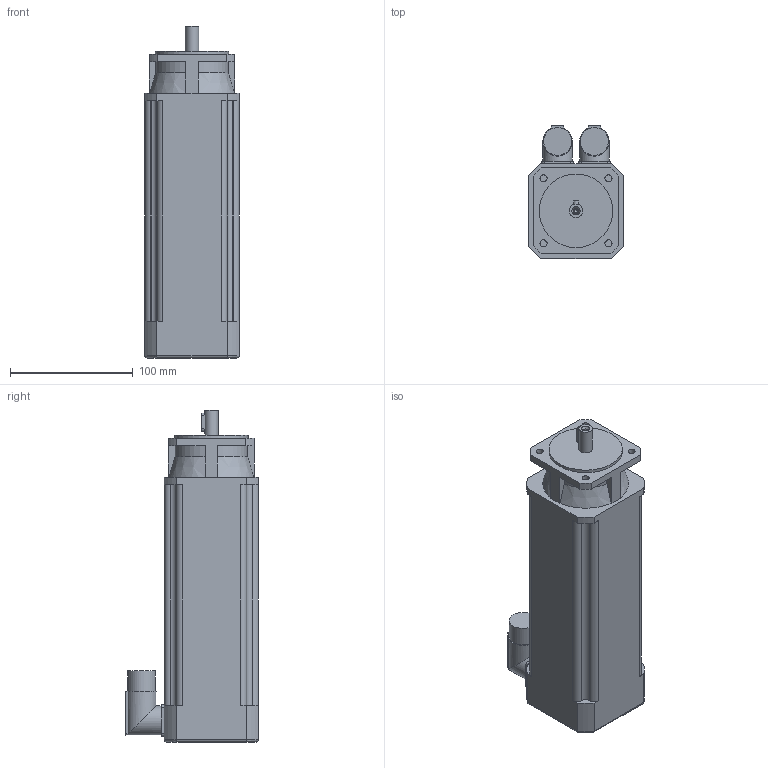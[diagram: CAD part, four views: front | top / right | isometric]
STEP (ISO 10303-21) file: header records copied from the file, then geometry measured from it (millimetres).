
FILE_DESCRIPTION(/* description */ (''),/* implementation_level */ '2;1');
FILE_NAME(/* name */ '\\Lafnas01\disegni\Archivi Lafert\3D\CAD 3D\MODELLI\Assiemi clienti\Serad\Modelli 3D Serad\B36I\Resolver\Res With Brake\B36F5Ixx6B052033.ipt.stp',/* time_stamp */ '2015-09-07T10:49:11+02:00',/* author */ ('Pastrello Ylenia'),/* organization */ (''),/* preprocessor_version */ 'ST-DEVELOPER v15.6',/* originating_system */ 'Autodesk Inventor 2015',/* authorisation */ '');
FILE_SCHEMA (('AUTOMOTIVE_DESIGN { 1 0 10303 214 3 1 1 }'));
Length unit declared in the file: millimetre
Products named in the file (1): B36F5Ixx6B052033
Bounding box: 77 x 108.5 x 271 mm (x, y, z)
Volume: 1378511.9 mm3; surface area: 94194.3 mm2
Topology: 1 solids, 1 shells, 137 faces, 372 edges, 244 vertices
Faces by surface type: plane 66, cylinder 56, cone 11, torus 4
Full cylindrical faces by diameter (mm): 3.242 x1, 4.3 x1, 5.8 x4, 11 x1, 22.7 x2, 24 x2, 60 x1
Entity records: 4352 total; most frequent: CARTESIAN_POINT 890, DIRECTION 726, ORIENTED_EDGE 702, EDGE_CURVE 351, AXIS2_PLACEMENT_3D 259, VERTEX_POINT 239, LINE 208, VECTOR 208
